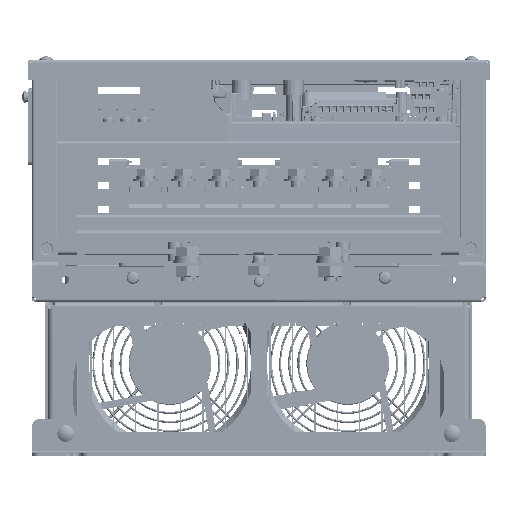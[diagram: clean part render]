
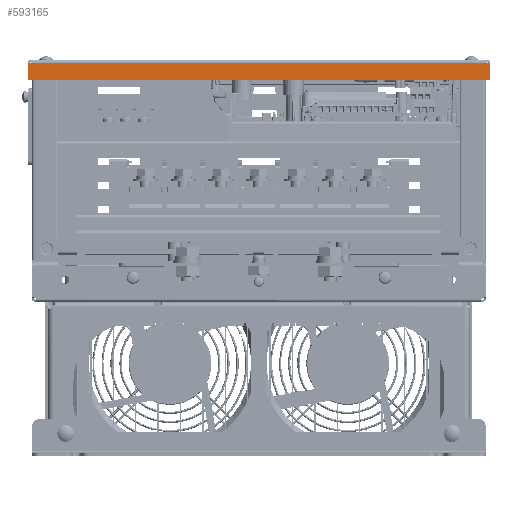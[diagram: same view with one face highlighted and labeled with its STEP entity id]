
A CAD part, front view. The second image highlights one B-rep face of the part: STEP entity #593165.
In plain terms, the highlighted planar face has unit normal (0, -1, 0).
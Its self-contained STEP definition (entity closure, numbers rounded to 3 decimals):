
#592277=DIRECTION('',(-1.,0.,0.));
#592278=VECTOR('',#592277,12.835);
#592279=CARTESIAN_POINT('',(6.417,-10.102,
11.059));
#592280=LINE('',#592279,#592278);
#592299=DIRECTION('',(-1.,0.,0.));
#592300=VECTOR('',#592299,0.079);
#592301=CARTESIAN_POINT('',(6.496,-10.102,
11.059));
#592302=LINE('',#592301,#592300);
#592377=DIRECTION('',(-1.,0.,0.));
#592378=VECTOR('',#592377,0.079);
#592379=CARTESIAN_POINT('',(-6.417,-10.102,
11.059));
#592380=LINE('',#592379,#592378);
#592385=DIRECTION('',(0.,0.,-1.));
#592386=VECTOR('',#592385,0.492);
#592387=CARTESIAN_POINT('',(-6.496,-10.102,
11.059));
#592388=LINE('',#592387,#592386);
#592393=DIRECTION('',(1.,0.,0.));
#592394=VECTOR('',#592393,12.992);
#592395=CARTESIAN_POINT('',(-6.496,-10.102,
10.567));
#592396=LINE('',#592395,#592394);
#592401=DIRECTION('',(0.,0.,1.));
#592402=VECTOR('',#592401,0.492);
#592403=CARTESIAN_POINT('',(6.496,-10.102,
10.567));
#592404=LINE('',#592403,#592402);
#592751=CARTESIAN_POINT('',(6.417,-10.102,
11.059));
#592752=CARTESIAN_POINT('',(-6.417,-10.102,
11.059));
#592753=VERTEX_POINT('',#592751);
#592754=VERTEX_POINT('',#592752);
#592755=CARTESIAN_POINT('',(6.496,-10.102,
11.059));
#592756=VERTEX_POINT('',#592755);
#592757=CARTESIAN_POINT('',(6.496,-10.102,
10.567));
#592758=VERTEX_POINT('',#592757);
#592759=CARTESIAN_POINT('',(-6.496,-10.102,
10.567));
#592760=VERTEX_POINT('',#592759);
#592761=CARTESIAN_POINT('',(-6.496,-10.102,
11.059));
#592762=VERTEX_POINT('',#592761);
#593147=CARTESIAN_POINT('',(3.378,-10.102,
11.079));
#593148=DIRECTION('',(0.,-1.,0.));
#593149=DIRECTION('',(1.,0.,0.));
#593150=AXIS2_PLACEMENT_3D('',#593147,#593148,#593149);
#593151=PLANE('',#593150);
#593152=ORIENTED_EDGE('',*,*,#593133,.F.);
#593154=ORIENTED_EDGE('',*,*,#593153,.F.);
#593156=ORIENTED_EDGE('',*,*,#593155,.F.);
#593158=ORIENTED_EDGE('',*,*,#593157,.F.);
#593160=ORIENTED_EDGE('',*,*,#593159,.F.);
#593162=ORIENTED_EDGE('',*,*,#593161,.F.);
#593163=EDGE_LOOP('',(#593152,#593154,#593156,#593158,#593160,#593162));
#593164=FACE_OUTER_BOUND('',#593163,.F.);
#593165=ADVANCED_FACE('',(#593164),#593151,.T.);
#593133=EDGE_CURVE('',#592753,#592754,#592280,.T.);
#593153=EDGE_CURVE('',#592756,#592753,#592302,.T.);
#593155=EDGE_CURVE('',#592758,#592756,#592404,.T.);
#593157=EDGE_CURVE('',#592760,#592758,#592396,.T.);
#593159=EDGE_CURVE('',#592762,#592760,#592388,.T.);
#593161=EDGE_CURVE('',#592754,#592762,#592380,.T.);
